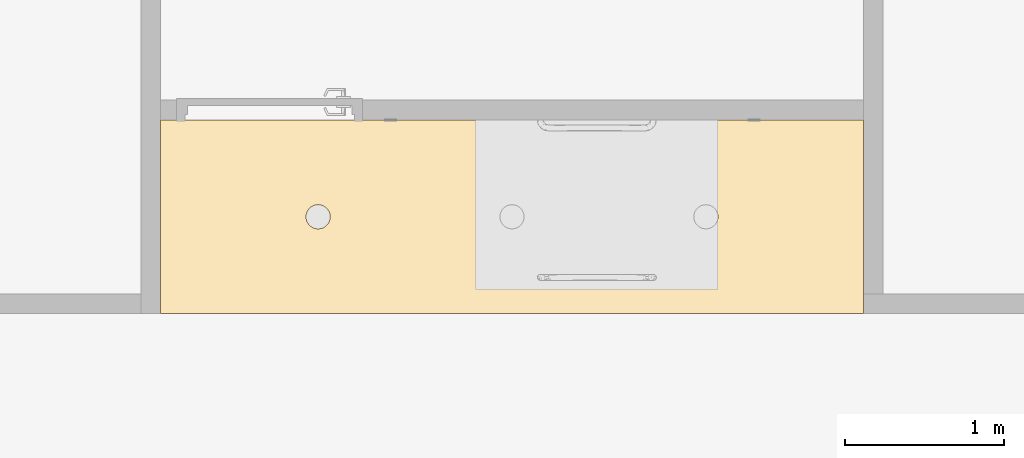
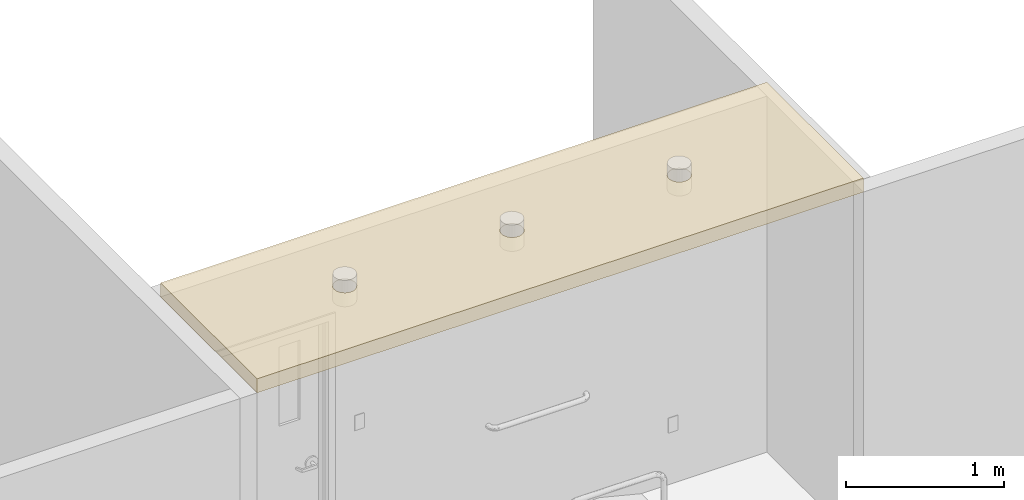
# One storey, part 3 of 5: 1 covering.
"""IFC2X3 building model written with IfcOpenShell, lengths in feet."""

from ifc_helpers import new_model, entity, si_unit, converted_unit, derived_unit, direction, frame, frame_2d, origin, place, context, subcontext, project, spatial, polyline, circle_curve, parameter, trimmed, segment, composite_curve, outline, extrude, material, layer, layer_set, layer_usage, element, save


model = new_model("IFC2X3")

# Units and contexts
model_context = context("Model", 3, precision=0.0001, world=origin(), true_north=direction((6.12303176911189e-17, 1.0)))
body_context = subcontext(model_context, "Body", "Model", "MODEL_VIEW")
ifc_project = project(units=[converted_unit("LENGTHUNIT", "FOOT", entity("IfcRatioMeasure", 0.3048), si_unit("LENGTHUNIT", "METRE"), dimensions=[1, 0, 0, 0, 0, 0, 0]), converted_unit("AREAUNIT", "SQUARE FOOT", entity("IfcRatioMeasure", 0.09290304), si_unit("AREAUNIT", "SQUARE_METRE"), dimensions=[2, 0, 0, 0, 0, 0, 0]), converted_unit("VOLUMEUNIT", "CUBIC FOOT", entity("IfcRatioMeasure", 0.028316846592), si_unit("VOLUMEUNIT", "CUBIC_METRE"), dimensions=[3, 0, 0, 0, 0, 0, 0]), converted_unit("PLANEANGLEUNIT", "DEGREE", entity("IfcRatioMeasure", 0.0174532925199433), si_unit("PLANEANGLEUNIT", "RADIAN"), dimensions=[0, 0, 0, 0, 0, 0, 0]), si_unit("MASSUNIT", "GRAM", prefix="KILO"), derived_unit("MASSDENSITYUNIT", [(si_unit("MASSUNIT", "GRAM", prefix="KILO"), 1), (si_unit("LENGTHUNIT", "METRE"), -3)]), si_unit("TIMEUNIT", "SECOND"), si_unit("FREQUENCYUNIT", "HERTZ"), si_unit("THERMODYNAMICTEMPERATUREUNIT", "DEGREE_CELSIUS"), derived_unit("THERMALTRANSMITTANCEUNIT", [(si_unit("MASSUNIT", "GRAM", prefix="KILO"), 1), (si_unit("THERMODYNAMICTEMPERATUREUNIT", "KELVIN"), -1), (si_unit("TIMEUNIT", "SECOND"), -3)]), derived_unit("VOLUMETRICFLOWRATEUNIT", [(si_unit("LENGTHUNIT", "METRE"), 3), (si_unit("TIMEUNIT", "SECOND"), -1)]), si_unit("ELECTRICCURRENTUNIT", "AMPERE"), si_unit("ELECTRICVOLTAGEUNIT", "VOLT"), si_unit("POWERUNIT", "WATT"), si_unit("FORCEUNIT", "NEWTON"), si_unit("ILLUMINANCEUNIT", "LUX"), si_unit("LUMINOUSFLUXUNIT", "LUMEN"), si_unit("LUMINOUSINTENSITYUNIT", "CANDELA"), derived_unit("USERDEFINED", [(si_unit("MASSUNIT", "GRAM", prefix="KILO"), -1), (si_unit("LENGTHUNIT", "METRE"), -2), (si_unit("TIMEUNIT", "SECOND"), 3), (si_unit("LUMINOUSFLUXUNIT", "LUMEN"), 1)]), derived_unit("LINEARVELOCITYUNIT", [(si_unit("LENGTHUNIT", "METRE"), 1), (si_unit("TIMEUNIT", "SECOND"), -1)]), si_unit("PRESSUREUNIT", "PASCAL"), derived_unit("USERDEFINED", [(si_unit("LENGTHUNIT", "METRE"), -2), (si_unit("MASSUNIT", "GRAM", prefix="KILO"), 1), (si_unit("TIMEUNIT", "SECOND"), -2)])], contexts=[model_context])

# Site, building, storey, space
site_placement = place(None, origin())
site = spatial("IfcSite", under=ifc_project, at=site_placement, Name="Default", CompositionType="ELEMENT")
building_placement = place(site_placement, origin())
building = spatial("IfcBuilding", under=site, at=building_placement, Name="OUTPATIENT / PACT CLINIC (Ch. 265)", CompositionType="ELEMENT")
storey_placement = place(building_placement, origin())
storey = spatial("IfcBuildingStorey", under=building, at=storey_placement, Name="DATUM", CompositionType="ELEMENT", Elevation=0.0)
space_placement = place(storey_placement, origin())
space = spatial("IfcSpace", under=storey, at=space_placement, Name="PEHW2", CompositionType="ELEMENT", InteriorOrExteriorSpace="INTERNAL")

# Covering
ifc_material_1 = material(Name="<Unnamed>")
ifc_layer_1 = layer(ifc_material_1, 0.302083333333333)
ifc_material_2 = material(Name="gyp ceiling")
ifc_layer_2 = layer(ifc_material_2, 0.0520833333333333)
ifc_layer_set = layer_set([ifc_layer_1, ifc_layer_2], Name="Compound Ceiling:GWB on Mtl. Stud")
ifc_layer_usage = layer_usage(ifc_layer_set, "AXIS3", "POSITIVE", 0.0)
covering_placement = place(space_placement, origin())
element("IfcCovering", 1, at=covering_placement, inside=space, material=ifc_layer_usage, Name="Compound Ceiling:GWB on Mtl. Stud", ObjectType="Compound Ceiling:GWB on Mtl. Stud", PredefinedType="CEILING", context=body_context, shape_type="SweptSolid", body=[
    extrude(outline(polyline([(-7.25000000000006, -2.0), (7.25, -2.0), (7.25, 2.0), (-7.25, 2.0), (-7.25000000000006, -2.0)]), holes=[composite_curve([segment(trimmed(circle_curve(frame_2d((4.0, 0.0), x_axis=(-1.0, 0.0)), 0.25), [parameter(180.0)], [parameter(0.0)], True, "PARAMETER"), False, "CONTINUOUS"), segment(trimmed(circle_curve(frame_2d((4.0, 0.0), x_axis=(-1.0, 0.0)), 0.25), [parameter(0.0)], [parameter(180.0)], True, "PARAMETER"), False, "CONTINUOUS")], self_intersect=False), composite_curve([segment(trimmed(circle_curve(frame_2d((0.0, 0.0), x_axis=(-1.0, 0.0)), 0.25), [parameter(180.0)], [parameter(0.0)], True, "PARAMETER"), False, "CONTINUOUS"), segment(trimmed(circle_curve(frame_2d((0.0, 0.0), x_axis=(-1.0, 0.0)), 0.25), [parameter(0.0)], [parameter(180.0)], True, "PARAMETER"), False, "CONTINUOUS")], self_intersect=False), composite_curve([segment(trimmed(circle_curve(frame_2d((-4.0, 0.0), x_axis=(-1.0, 0.0)), 0.25), [parameter(180.0)], [parameter(0.0)], True, "PARAMETER"), False, "CONTINUOUS"), segment(trimmed(circle_curve(frame_2d((-4.0, 0.0), x_axis=(-1.0, 0.0)), 0.25), [parameter(0.0)], [parameter(180.0)], True, "PARAMETER"), False, "CONTINUOUS")], self_intersect=False)]), frame((-429.289326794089, -859.217500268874, 9.0), z_axis=(0.0, 0.0, 1.0), x_axis=(-1.0, 0.0, 0.0)), (0.0, 0.0, 1.0), 0.354166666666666),
])

save(model, "model.ifc")
